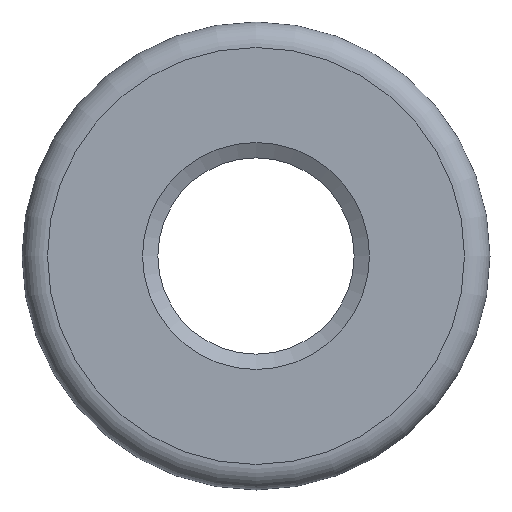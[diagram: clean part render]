
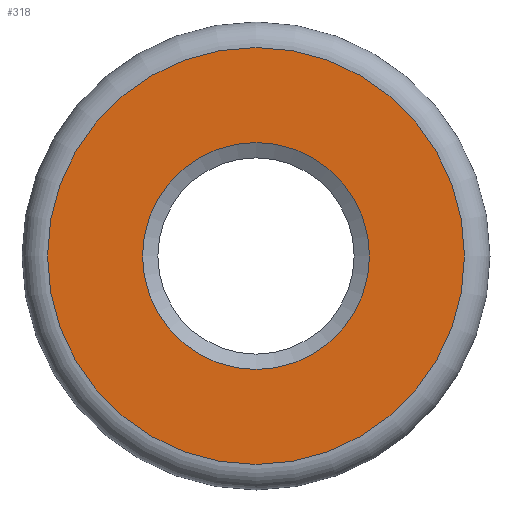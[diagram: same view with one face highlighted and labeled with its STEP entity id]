
A CAD part, left-side view. The second image highlights one B-rep face of the part: STEP entity #318.
In plain terms, the highlighted planar face has unit normal (-1, 0, 0).
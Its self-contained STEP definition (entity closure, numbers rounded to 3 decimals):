
#41=FACE_BOUND('',#76,.T.);
#43=PLANE('',#371);
#55=FACE_OUTER_BOUND('',#75,.T.);
#75=EDGE_LOOP('',(#228));
#76=EDGE_LOOP('',(#229));
#121=CIRCLE('',#370,8.);
#122=CIRCLE('',#372,14.7);
#136=VERTEX_POINT('',#497);
#137=VERTEX_POINT('',#501);
#170=EDGE_CURVE('',#136,#136,#121,.T.);
#172=EDGE_CURVE('',#137,#137,#122,.T.);
#228=ORIENTED_EDGE('',*,*,#172,.F.);
#229=ORIENTED_EDGE('',*,*,#170,.F.);
#318=ADVANCED_FACE('',(#55,#41),#43,.T.);
#370=AXIS2_PLACEMENT_3D('',#498,#422,#423);
#371=AXIS2_PLACEMENT_3D('',#500,#425,#426);
#372=AXIS2_PLACEMENT_3D('',#502,#427,#428);
#422=DIRECTION('center_axis',(-1.,0.,0.));
#423=DIRECTION('ref_axis',(0.,0.,-1.));
#425=DIRECTION('center_axis',(-1.,0.,0.));
#426=DIRECTION('ref_axis',(0.,0.,1.));
#427=DIRECTION('center_axis',(1.,0.,0.));
#428=DIRECTION('ref_axis',(0.,1.,0.));
#497=CARTESIAN_POINT('',(0.,0.,8.));
#498=CARTESIAN_POINT('Origin',(0.,0.,0.));
#500=CARTESIAN_POINT('Origin',(0.,7.35,0.));
#501=CARTESIAN_POINT('',(0.,0.,14.7));
#502=CARTESIAN_POINT('Origin',(0.,0.,0.));
